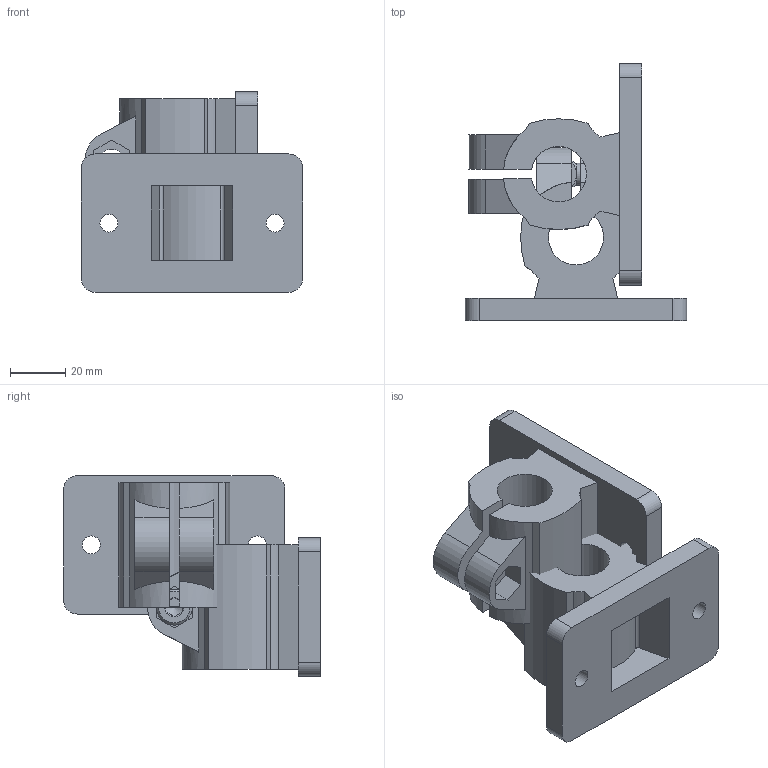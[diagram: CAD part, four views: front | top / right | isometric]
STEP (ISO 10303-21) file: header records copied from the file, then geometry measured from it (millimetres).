
FILE_DESCRIPTION( ( 'STEP AP214' ), '1' );
FILE_NAME( 'N:/Engineering/CAD_Solid/LVDT/Zubehör/Flanschklemmstück 2030.stp', '2011-12-12T15:40:36', ( ' ' ), ( ' ' ), 'XStep 1.0', ' ', ' ' );
FILE_SCHEMA( ( 'CONFIG_CONTROL_DESIGN) ( )' ) );
Length unit declared in the file: metre
Products named in the file (4): Assem1; DIN912_M8x20; Flanschklemmstück_D20; Mutter_DIN934_M8
Bounding box: 80 x 92.8 x 72.5 mm (x, y, z)
Volume: 154051.4 mm3; surface area: 49372.4 mm2
Topology: 6 solids, 6 shells, 198 faces, 484 edges, 308 vertices
Faces by surface type: plane 126, cylinder 46, cone 26
Full cylindrical faces by diameter (mm): 6.5 x4, 6.647 x2, 8 x2, 8.5 x4, 13 x2
Entity records: 3443 total; most frequent: CARTESIAN_POINT 626, DIRECTION 474, ORIENTED_EDGE 448, EDGE_CURVE 224, AXIS2_PLACEMENT_3D 171, VERTEX_POINT 151, LINE 132, VECTOR 132
